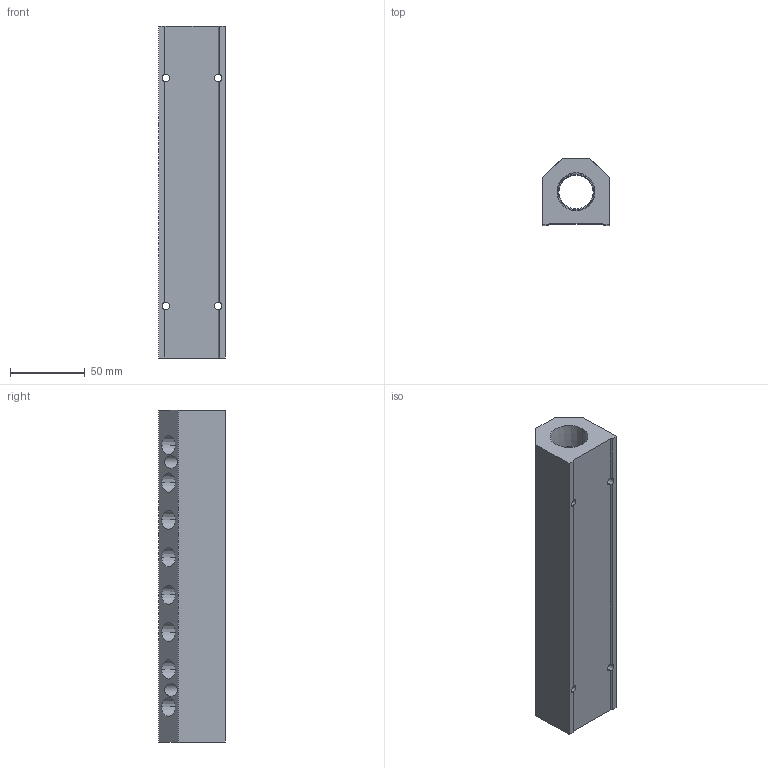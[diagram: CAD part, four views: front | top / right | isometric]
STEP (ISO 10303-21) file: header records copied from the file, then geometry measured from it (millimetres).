
FILE_DESCRIPTION (( 'STEP AP214' ), '1' );
FILE_NAME ('ALM8BD-N4N12-222R.step', '2022-02-06T14:06:20', ( '' ), ( '' ), 'SwSTEP 2.0', 'SolidWorks 2020', '' );
FILE_SCHEMA (( 'AUTOMOTIVE_DESIGN' ));
Length unit declared in the file: millimetre
Products named in the file (1): ALM8BD-N4N12-222R
Bounding box: 44.5 x 44.5 x 222 mm (x, y, z)
Volume: 273876.4 mm3; surface area: 60697.4 mm2
Topology: 1 solids, 1 shells, 342 faces, 917 edges, 606 vertices
Faces by surface type: plane 211, bspline 65, cone 44, cylinder 22
Entity records: 19204 total; most frequent: CARTESIAN_POINT 7943, ORIENTED_EDGE 1834, DIRECTION 1363, EDGE_CURVE 917, VECTOR 639, LINE 639, VERTEX_POINT 606, EDGE_LOOP 413
